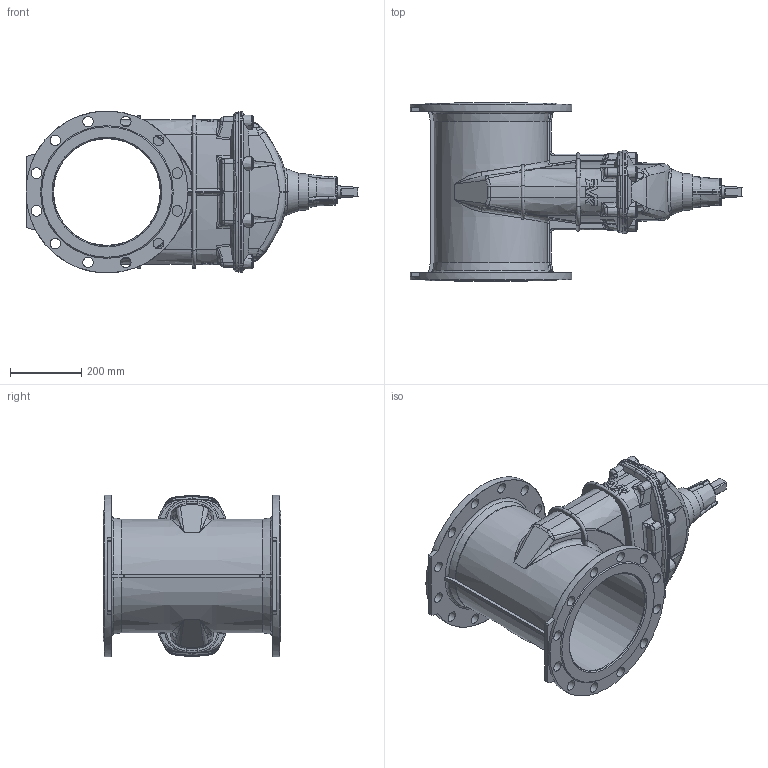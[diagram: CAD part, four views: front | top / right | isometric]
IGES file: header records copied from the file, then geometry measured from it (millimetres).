
Start section: SolidWorks IGES file using analytic representation for surfaces
Global section: file name: \\avksan2\techshare\PBM outline export from Enovia\O_02_XX_DN300_Gate Valve_PN16_REV02.igs; native system: SolidWorks 2019; preprocessor: SolidWorks 2019; author: pbm; date: 210111.115707; units: millimetre
Bounding box: 933.55 x 500 x 455 mm (x, y, z)
Surface area: 1895528.9 mm2 (no closed solid volume)
Topology: 0 solids, 0 shells, 901 faces, 5843 edges, 5779 vertices
Faces by surface type: revolution 458, bspline 443
